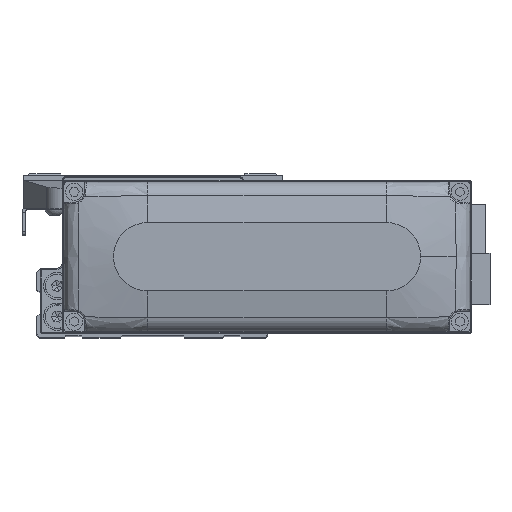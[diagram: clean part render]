
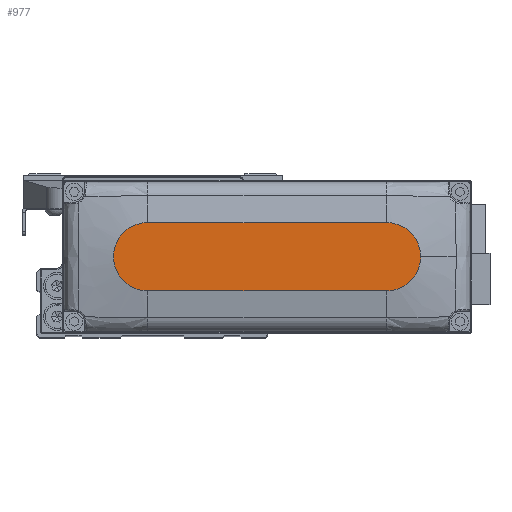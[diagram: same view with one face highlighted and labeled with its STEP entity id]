
A CAD part, top view. The second image highlights one B-rep face of the part: STEP entity #977.
In plain terms, the highlighted planar face has unit normal (0, 0, 1).
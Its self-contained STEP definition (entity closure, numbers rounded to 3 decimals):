
#977 = ADVANCED_FACE ( 'NONE', ( #18675 ), #31803, .T. ) ;
#1054 = VERTEX_POINT ( 'NONE', #9615 ) ;
#2313 = CARTESIAN_POINT ( 'NONE',  ( 0., 0., 28. ) ) ;
#2945 = CARTESIAN_POINT ( 'NONE',  ( -35., -10., 28. ) ) ;
#3372 = CARTESIAN_POINT ( 'NONE',  ( 35., 0., 28. ) ) ;
#4314 = CARTESIAN_POINT ( 'NONE',  ( 35., 10., 28. ) ) ;
#5495 = EDGE_CURVE ( 'NONE', #20866, #7742, #24557, .T. ) ;
#7742 = VERTEX_POINT ( 'NONE', #25680 ) ;
#8218 = DIRECTION ( 'NONE',  ( -1., 0., 0. ) ) ;
#9615 = CARTESIAN_POINT ( 'NONE',  ( 35., -10., 28. ) ) ;
#9899 = VERTEX_POINT ( 'NONE', #21864 ) ;
#12419 = CIRCLE ( 'NONE', #36494, 10. ) ;
#12597 = DIRECTION ( 'NONE',  ( 1., 0., 0. ) ) ;
#12991 = ORIENTED_EDGE ( 'NONE', *, *, #16778, .T. ) ;
#13989 = CARTESIAN_POINT ( 'NONE',  ( 35., 0., 28. ) ) ;
#15430 = DIRECTION ( 'NONE',  ( 0., 0., 1. ) ) ;
#16063 = DIRECTION ( 'NONE',  ( 1., 0., 0. ) ) ;
#16069 = EDGE_CURVE ( 'NONE', #1054, #32649, #12419, .T. ) ;
#16504 = DIRECTION ( 'NONE',  ( 0., 0., 1. ) ) ;
#16778 = EDGE_CURVE ( 'NONE', #7742, #9899, #41347, .T. ) ;
#18675 = FACE_OUTER_BOUND ( 'NONE', #33473, .T. ) ;
#19208 = ORIENTED_EDGE ( 'NONE', *, *, #22849, .T. ) ;
#20854 = EDGE_CURVE ( 'NONE', #32649, #20866, #39577, .T. ) ;
#20866 = VERTEX_POINT ( 'NONE', #4314 ) ;
#20921 = ORIENTED_EDGE ( 'NONE', *, *, #20854, .T. ) ;
#21482 = CARTESIAN_POINT ( 'NONE',  ( 45., 0., 28. ) ) ;
#21864 = CARTESIAN_POINT ( 'NONE',  ( -35., -10., 28. ) ) ;
#22146 = ORIENTED_EDGE ( 'NONE', *, *, #16069, .T. ) ;
#22565 = AXIS2_PLACEMENT_3D ( 'NONE', #2313, #15430, #28546 ) ;
#22771 = AXIS2_PLACEMENT_3D ( 'NONE', #28956, #42083, #12597 ) ;
#22849 = EDGE_CURVE ( 'NONE', #9899, #1054, #32436, .T. ) ;
#24557 = LINE ( 'NONE', #37698, #37061 ) ;
#25680 = CARTESIAN_POINT ( 'NONE',  ( -35., 10., 28. ) ) ;
#26275 = ORIENTED_EDGE ( 'NONE', *, *, #5495, .T. ) ;
#26521 = AXIS2_PLACEMENT_3D ( 'NONE', #13989, #27107, #40238 ) ;
#27107 = DIRECTION ( 'NONE',  ( 0., 0., 1. ) ) ;
#28546 = DIRECTION ( 'NONE',  ( 1., 0., 0. ) ) ;
#28956 = CARTESIAN_POINT ( 'NONE',  ( -35., 0., 28. ) ) ;
#29627 = DIRECTION ( 'NONE',  ( 1., 0., 0. ) ) ;
#31471 = VECTOR ( 'NONE', #16063, 1000. ) ;
#31803 = PLANE ( 'NONE',  #22565 ) ;
#32436 = LINE ( 'NONE', #2945, #31471 ) ;
#32649 = VERTEX_POINT ( 'NONE', #21482 ) ;
#33473 = EDGE_LOOP ( 'NONE', ( #26275, #12991, #19208, #22146, #20921 ) ) ;
#36494 = AXIS2_PLACEMENT_3D ( 'NONE', #3372, #16504, #29627 ) ;
#37061 = VECTOR ( 'NONE', #8218, 1000. ) ;
#37698 = CARTESIAN_POINT ( 'NONE',  ( -35., 10., 28. ) ) ;
#39577 = CIRCLE ( 'NONE', #26521, 10. ) ;
#40238 = DIRECTION ( 'NONE',  ( 1., 0., 0. ) ) ;
#41347 = CIRCLE ( 'NONE', #22771, 10. ) ;
#42083 = DIRECTION ( 'NONE',  ( 0., 0., 1. ) ) ;
